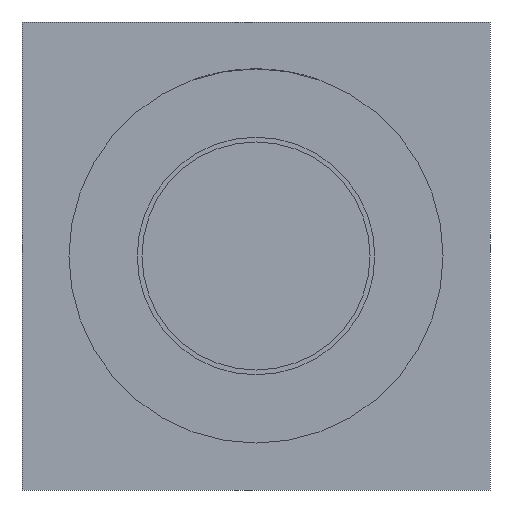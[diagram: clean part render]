
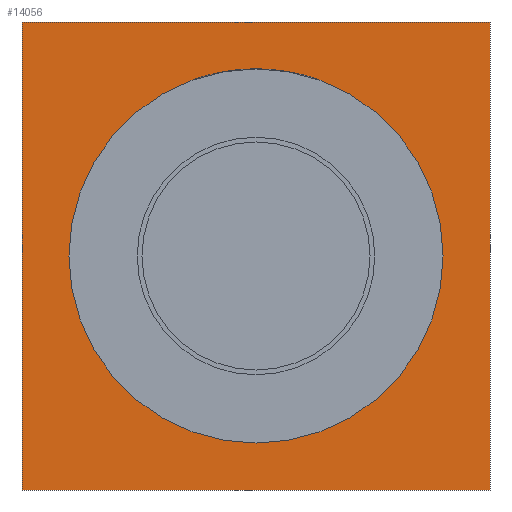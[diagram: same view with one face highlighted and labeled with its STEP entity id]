
A CAD part, front view. The second image highlights one B-rep face of the part: STEP entity #14056.
In plain terms, the highlighted planar face has unit normal (0, -1, 0).
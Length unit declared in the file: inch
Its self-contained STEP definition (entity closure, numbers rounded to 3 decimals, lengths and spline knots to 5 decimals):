
#13760=CARTESIAN_POINT('',(-3.15,10.09,0.0));
#13761=VERTEX_POINT('',#13760);
#13762=CARTESIAN_POINT('',(0.0,10.09,0.0));
#13763=DIRECTION('',(0.0,1.0,0.0));
#13764=DIRECTION('',(-1.0,0.0,0.0));
#13765=AXIS2_PLACEMENT_3D('',#13762,#13763,#13764);
#13766=CIRCLE('',#13765,3.15);
#13767=EDGE_CURVE('',#13761,#13761,#13766,.T.);
#13889=CARTESIAN_POINT('',(3.94,10.09,-3.94));
#13890=VERTEX_POINT('',#13889);
#13891=CARTESIAN_POINT('',(-3.94,10.09,-3.94));
#13892=VERTEX_POINT('',#13891);
#13893=CARTESIAN_POINT('',(3.94,10.09,-3.94));
#13894=DIRECTION('',(-1.0,0.0,0.0));
#13895=VECTOR('',#13894,7.88);
#13896=LINE('',#13893,#13895);
#13897=EDGE_CURVE('',#13890,#13892,#13896,.T.);
#13929=CARTESIAN_POINT('',(-3.94,10.09,3.94));
#13930=VERTEX_POINT('',#13929);
#13931=CARTESIAN_POINT('',(-3.94,10.09,-3.94));
#13932=DIRECTION('',(0.0,0.0,1.0));
#13933=VECTOR('',#13932,7.88);
#13934=LINE('',#13931,#13933);
#13935=EDGE_CURVE('',#13892,#13930,#13934,.T.);
#13960=CARTESIAN_POINT('',(3.94,10.09,3.94));
#13961=VERTEX_POINT('',#13960);
#13962=CARTESIAN_POINT('',(-3.94,10.09,3.94));
#13963=DIRECTION('',(1.0,0.0,0.0));
#13964=VECTOR('',#13963,7.88);
#13965=LINE('',#13962,#13964);
#13966=EDGE_CURVE('',#13930,#13961,#13965,.T.);
#13991=CARTESIAN_POINT('',(3.94,10.09,3.94));
#13992=DIRECTION('',(0.0,0.0,-1.0));
#13993=VECTOR('',#13992,7.88);
#13994=LINE('',#13991,#13993);
#13995=EDGE_CURVE('',#13961,#13890,#13994,.T.);
#14042=CARTESIAN_POINT('',(-3.545,10.09,0.0));
#14043=DIRECTION('',(0.0,-1.0,0.0));
#14044=DIRECTION('',(0.0,0.0,-1.0));
#14045=AXIS2_PLACEMENT_3D('',#14042,#14043,#14044);
#14046=PLANE('',#14045);
#14047=ORIENTED_EDGE('',*,*,#13935,.F.);
#14048=ORIENTED_EDGE('',*,*,#13897,.F.);
#14049=ORIENTED_EDGE('',*,*,#13995,.F.);
#14050=ORIENTED_EDGE('',*,*,#13966,.F.);
#14051=EDGE_LOOP('',(#14047,#14048,#14049,#14050));
#14052=FACE_OUTER_BOUND('',#14051,.T.);
#14053=ORIENTED_EDGE('',*,*,#13767,.T.);
#14054=EDGE_LOOP('',(#14053));
#14055=FACE_BOUND('',#14054,.T.);
#14056=ADVANCED_FACE('',(#14052,#14055),#14046,.T.);
